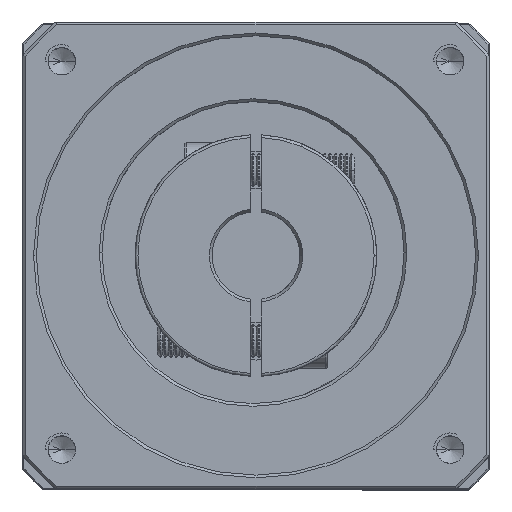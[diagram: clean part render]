
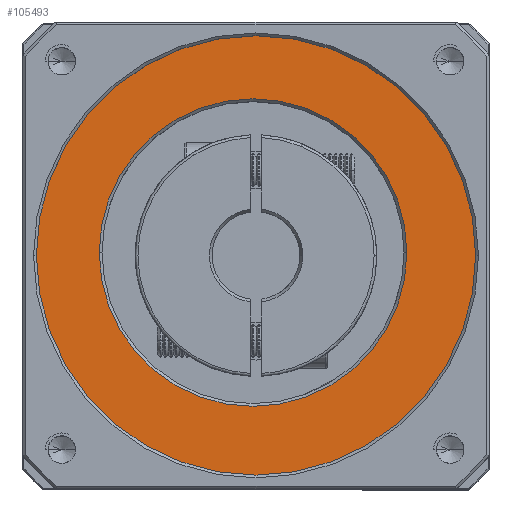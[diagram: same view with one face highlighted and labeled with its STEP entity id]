
A CAD part, top view. The second image highlights one B-rep face of the part: STEP entity #105493.
In plain terms, the highlighted planar face has unit normal (0, 0, 1).
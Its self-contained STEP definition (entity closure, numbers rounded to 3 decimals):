
#3884 = CARTESIAN_POINT ( 'NONE',  ( -100.694, 29.168, 30.066 ) ) ;
#4666 = AXIS2_PLACEMENT_3D ( 'NONE', #96232, #44094, #104841 ) ;
#10335 = EDGE_CURVE ( 'NONE', #36254, #49840, #43953, .T. ) ;
#12619 = DIRECTION ( 'NONE',  ( 1., 0., 0. ) ) ;
#13343 = AXIS2_PLACEMENT_3D ( 'NONE', #83129, #30706, #91748 ) ;
#13367 = CARTESIAN_POINT ( 'NONE',  ( -140.153, 28.633, 30.066 ) ) ;
#13884 = EDGE_CURVE ( 'NONE', #38771, #29306, #22663, .T. ) ;
#17139 = ORIENTED_EDGE ( 'NONE', *, *, #13884, .T. ) ;
#18735 = ORIENTED_EDGE ( 'NONE', *, *, #57726, .T. ) ;
#18891 = CARTESIAN_POINT ( 'NONE',  ( -100.694, 29.168, 30.066 ) ) ;
#20945 = AXIS2_PLACEMENT_3D ( 'NONE', #3884, #65055, #12619 ) ;
#22659 = AXIS2_PLACEMENT_3D ( 'NONE', #18891, #80072, #27612 ) ;
#22663 = CIRCLE ( 'NONE', #4666, 40. ) ;
#23771 = ORIENTED_EDGE ( 'NONE', *, *, #10335, .T. ) ;
#23963 = CIRCLE ( 'NONE', #63026, 40. ) ;
#25077 = ORIENTED_EDGE ( 'NONE', *, *, #52709, .T. ) ;
#27612 = DIRECTION ( 'NONE',  ( 1., 0., 0. ) ) ;
#28313 = CARTESIAN_POINT ( 'NONE',  ( -128.694, 29.168, 30.066 ) ) ;
#29306 = VERTEX_POINT ( 'NONE', #13367 ) ;
#30706 = DIRECTION ( 'NONE',  ( 0., 0., 1. ) ) ;
#30995 = CARTESIAN_POINT ( 'NONE',  ( -60.153, 28.633, 30.066 ) ) ;
#36254 = VERTEX_POINT ( 'NONE', #85829 ) ;
#38771 = VERTEX_POINT ( 'NONE', #30995 ) ;
#43953 = CIRCLE ( 'NONE', #20945, 28. ) ;
#44094 = DIRECTION ( 'NONE',  ( 0., 0., 1. ) ) ;
#44685 = CARTESIAN_POINT ( 'NONE',  ( -100.153, 28.633, 30.066 ) ) ;
#48187 = FACE_OUTER_BOUND ( 'NONE', #95834, .T. ) ;
#49840 = VERTEX_POINT ( 'NONE', #28313 ) ;
#50050 = EDGE_LOOP ( 'NONE', ( #23771, #25077 ) ) ;
#52709 = EDGE_CURVE ( 'NONE', #49840, #36254, #99094, .T. ) ;
#53506 = DIRECTION ( 'NONE',  ( 1., 0., 0. ) ) ;
#57726 = EDGE_CURVE ( 'NONE', #29306, #38771, #23963, .T. ) ;
#63026 = AXIS2_PLACEMENT_3D ( 'NONE', #44685, #105407, #53506 ) ;
#65055 = DIRECTION ( 'NONE',  ( 0., 0., -1. ) ) ;
#80072 = DIRECTION ( 'NONE',  ( 0., 0., -1. ) ) ;
#83129 = CARTESIAN_POINT ( 'NONE',  ( -100.153, 28.633, 30.066 ) ) ;
#85829 = CARTESIAN_POINT ( 'NONE',  ( -72.694, 29.168, 30.066 ) ) ;
#91748 = DIRECTION ( 'NONE',  ( 1., 0., 0. ) ) ;
#94430 = FACE_BOUND ( 'NONE', #50050, .T. ) ;
#95834 = EDGE_LOOP ( 'NONE', ( #17139, #18735 ) ) ;
#96232 = CARTESIAN_POINT ( 'NONE',  ( -100.153, 28.633, 30.066 ) ) ;
#99094 = CIRCLE ( 'NONE', #22659, 28. ) ;
#104841 = DIRECTION ( 'NONE',  ( 1., 0., 0. ) ) ;
#105407 = DIRECTION ( 'NONE',  ( 0., 0., 1. ) ) ;
#105493 = ADVANCED_FACE ( 'NONE', ( #48187, #94430 ), #107532, .T. ) ;
#107532 = PLANE ( 'NONE',  #13343 ) ;
